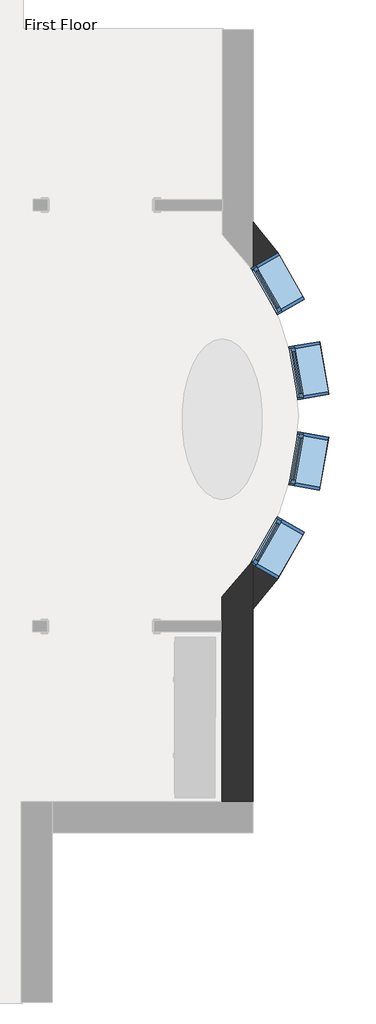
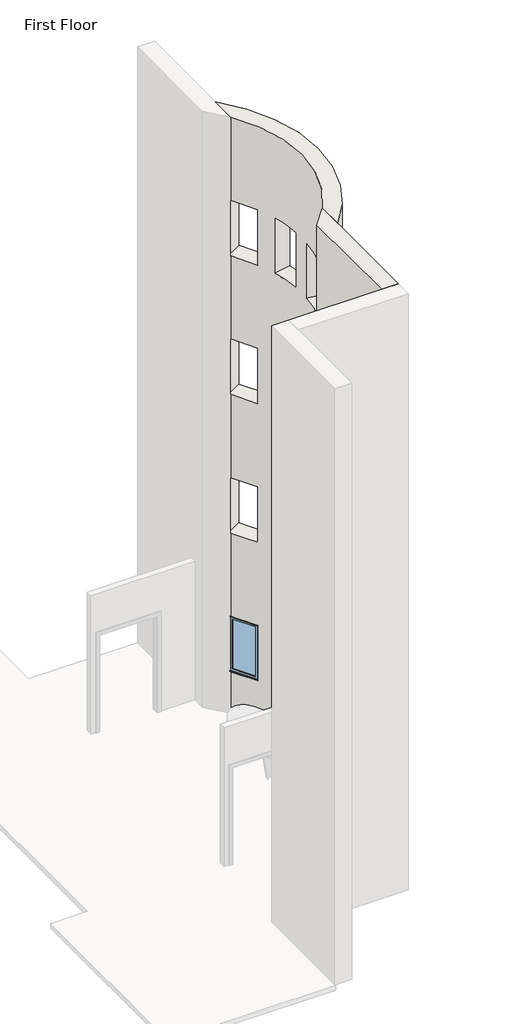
# One storey, part 9 of 21: 4 windows, 2 walls.
"""IFC4 building model written with IfcOpenShell, lengths in millimetres."""

from ifc_helpers import new_model, si_unit, frame, origin, place, context, project, spatial, polyline, circle_curve, transform, mapped, element, save
from ifc_brep_helpers import plane_surface, cylinder_surface, revolved_surface, advanced_brep
from components import window_60baf983, window_ed80354a

model = new_model("IFC4")

# Units and contexts
model_context = context("Model", 3, world=origin())
ifc_project = project(units=[si_unit("LENGTHUNIT", "METRE", prefix="MILLI")], contexts=[model_context])

# Site, building, storey
site = spatial("IfcSite", under=ifc_project)
building = spatial("IfcBuilding", under=site)
storey = spatial("IfcBuildingStorey", under=building, Name="First Floor", Elevation=0.0)

# Walls
placement = place(None, origin())
element("IfcWall", 1, ObjectType="Exterior - Brick on Mtl. Stud", at=placement, inside=storey, context=model_context, shape_type="AdvancedBrep", body=[
    advanced_brep(
    [(-23526.8117359, -6443.0502457, 0.0), (-23527.2351081, -7000.9446693, 0.0), (-23528.8981082, -9192.3463043, 0.0), (-23881.3230067, -9192.0788578, 0.0), (-23879.8556652, -7258.5044146, 0.0), (-23879.7592881, -7131.5044511, 0.0), (-23879.5507279, -6856.676378, 0.0), (-23528.8981082, -9192.3463043, 13106.4), (-23527.2351081, -7000.9446693, 13106.4), (-23526.8117359, -6443.0502457, 13106.4), (-23879.5507279, -6856.676378, 13106.4), (-23881.3230067, -9192.0788578, 13106.4), (-23526.8117359, -6443.0502457, 914.4), (-23526.8491395, -6492.3384795, 914.4), (-23526.8491395, -6492.3384795, 2133.6), (-23526.8117359, -6443.0502457, 2133.6), (-23526.8117359, -6443.0502457, 3962.4), (-23526.8491395, -6492.3384795, 3962.4), (-23526.8491395, -6492.3384795, 5181.6), (-23526.8117359, -6443.0502457, 5181.6), (-23526.8117359, -6443.0502457, 7010.4), (-23526.8491395, -6492.3384795, 7010.4), (-23526.8491395, -6492.3384795, 8229.6), (-23526.8117359, -6443.0502457, 8229.6), (-23526.8117359, -6443.0502457, 10058.4), (-23526.8491395, -6492.3384795, 10058.4), (-23526.8491395, -6492.3384795, 11277.6), (-23526.8117359, -6443.0502457, 11277.6), (-23532.3737898, -6450.9575289, 11277.6), (-23532.3737898, -6450.9575289, 10058.4), (-23532.3737898, -6450.9575289, 8229.6), (-23532.3737898, -6450.9575289, 7010.4), (-23532.3737898, -6450.9575289, 5181.6), (-23532.3737898, -6450.9575289, 3962.4), (-23532.3737898, -6450.9575289, 2133.6), (-23532.3737898, -6450.9575289, 914.4), (-23548.8527973, -6479.7410461, 2133.6), (-23548.8527973, -6479.7410461, 914.4), (-23548.8527973, -6479.7410461, 11277.6), (-23548.8527973, -6479.7410461, 10058.4), (-23548.8527973, -6479.7410461, 5181.6), (-23548.8527973, -6479.7410461, 3962.4), (-23548.8527973, -6479.7410461, 8229.6), (-23548.8527973, -6479.7410461, 7010.4)],
    [
        (0, 1),
        (1, 2),
        (2, 3),
        (3, 4),
        (4, 5),
        (5, 6),
        (6, 0, circle_curve(frame((-25878.481463, -4794.7744983, 0.0), z_axis=(0.0, 0.0, 1.0), x_axis=(0.0007588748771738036, 0.999999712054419, 0.0)), 2871.7875)),
        (7, 8),
        (8, 9),
        (9, 10, circle_curve(frame((-25878.481463, -4794.7744983, 13106.4), z_axis=(0.0, 0.0, -1.0), x_axis=(0.0007588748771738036, 0.999999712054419, 0.0)), 2871.7875)),
        (10, 11),
        (11, 7),
        (0, 12),
        (12, 13),
        (13, 14),
        (14, 15),
        (15, 16),
        (16, 17),
        (17, 18),
        (18, 19),
        (19, 20),
        (20, 21),
        (21, 22),
        (22, 23),
        (23, 24),
        (24, 25),
        (25, 26),
        (26, 27),
        (27, 9),
        (7, 2),
        (3, 11),
        (10, 6),
        (27, 28, circle_curve(frame((-25878.481463, -4794.7744983, 11277.6), z_axis=(0.0, 0.0, -1.0), x_axis=(0.0007588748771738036, 0.999999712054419, 0.0)), 2871.7875)),
        (28, 29),
        (29, 24, circle_curve(frame((-25878.481463, -4794.7744983, 10058.4), z_axis=(0.0, 0.0, 1.0), x_axis=(0.0007588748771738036, 0.999999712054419, 0.0)), 2871.7875)),
        (23, 30, circle_curve(frame((-25878.481463, -4794.7744983, 8229.6), z_axis=(0.0, 0.0, -1.0), x_axis=(0.0007588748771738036, 0.999999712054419, 0.0)), 2871.7875)),
        (30, 31),
        (31, 20, circle_curve(frame((-25878.481463, -4794.7744983, 7010.4), z_axis=(0.0, 0.0, 1.0), x_axis=(0.0007588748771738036, 0.999999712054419, 0.0)), 2871.7875)),
        (19, 32, circle_curve(frame((-25878.481463, -4794.7744983, 5181.6), z_axis=(0.0, 0.0, -1.0), x_axis=(0.0007588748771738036, 0.999999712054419, 0.0)), 2871.7875)),
        (32, 33),
        (33, 16, circle_curve(frame((-25878.481463, -4794.7744983, 3962.4), z_axis=(0.0, 0.0, 1.0), x_axis=(0.0007588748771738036, 0.999999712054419, 0.0)), 2871.7875)),
        (15, 34, circle_curve(frame((-25878.481463, -4794.7744983, 2133.6), z_axis=(0.0, 0.0, -1.0), x_axis=(0.0007588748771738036, 0.999999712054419, 0.0)), 2871.7875)),
        (34, 35),
        (35, 12, circle_curve(frame((-25878.481463, -4794.7744983, 914.4), z_axis=(0.0, 0.0, 1.0), x_axis=(0.0007588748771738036, 0.999999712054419, 0.0)), 2871.7875)),
        (36, 37),
        (37, 35),
        (34, 36),
        (37, 13),
        (36, 14),
        (38, 39),
        (39, 29),
        (28, 38),
        (39, 25),
        (38, 26),
        (40, 41),
        (41, 33),
        (32, 40),
        (41, 17),
        (40, 18),
        (42, 43),
        (43, 31),
        (30, 42),
        (43, 21),
        (42, 22),
    ],
    [
        plane_surface(frame((-23529.0318314, -9368.5587536, 0.0), z_axis=(0.0, 0.0, -1.0), x_axis=(-0.999999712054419, 0.0007588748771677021, 0.0))),
        plane_surface(frame((-23527.1813909, -6930.1594557, 13106.4), z_axis=(0.0, 0.0, 1.0), x_axis=(-0.999999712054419, 0.0007588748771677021, 0.0))),
        plane_surface(frame((-23529.0318314, -9368.5587536, 0.0), z_axis=(0.999999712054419, -0.0007588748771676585, 0.0), x_axis=(0.0007588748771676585, 0.999999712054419, 0.0))),
        plane_surface(frame((-23881.4567299, -9368.2913071, 0.0), z_axis=(-0.999999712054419, 0.0007588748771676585, 0.0), x_axis=(-0.0007588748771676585, -0.999999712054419, 0.0))),
        plane_surface(frame((-25991.1098992, -9190.4777931, 0.0), z_axis=(-0.0007588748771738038, -0.9999997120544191, 0.0), x_axis=(-0.9999997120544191, 0.0007588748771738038, 0.0))),
        revolved_surface(polyline([(-25876.302135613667, -1922.9878252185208, 0.0), (-25876.302135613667, -1922.9878252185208, 13106.399999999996)]), (-25878.481463, -4794.7744983, 0.0), (0.0, 0.0, -0.9999999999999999)),
        plane_surface(frame((-23245.9731559, -5950.7078875, 2133.6), z_axis=(0.8678365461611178, -0.49684980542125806, 0.0), x_axis=(0.0, 0.0, -1.0))),
        plane_surface(frame((-23245.9731559, -5950.7078875, 914.4), z_axis=(0.0, 0.0, 1.0), x_axis=(0.8678365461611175, -0.4968498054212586, 0.0))),
        plane_surface(frame((-23548.8527973, -6479.7410461, 914.4), z_axis=(0.4968498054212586, 0.8678365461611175, 0.0), x_axis=(0.8678365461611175, -0.4968498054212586, 0.0))),
        plane_surface(frame((-23548.8527973, -6479.7410461, 2133.6), z_axis=(0.0, 0.0, -1.0), x_axis=(0.8678365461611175, -0.4968498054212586, 0.0))),
        plane_surface(frame((-23245.9731559, -5950.7078875, 11277.6), z_axis=(0.8678365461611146, -0.49684980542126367, 0.0), x_axis=(0.0, 0.0, -1.0))),
        plane_surface(frame((-23245.9731559, -5950.7078875, 10058.4), z_axis=(0.0, 0.0, 1.0000000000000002), x_axis=(0.8678365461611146, -0.496849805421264, 0.0))),
        plane_surface(frame((-23548.8527973, -6479.7410461, 10058.4), z_axis=(0.496849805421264, 0.8678365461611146, 0.0), x_axis=(0.8678365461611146, -0.496849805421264, 0.0))),
        plane_surface(frame((-23548.8527973, -6479.7410461, 11277.6), z_axis=(0.0, 0.0, -1.0000000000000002), x_axis=(0.8678365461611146, -0.496849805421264, 0.0))),
        plane_surface(frame((-23245.9731559, -5950.7078875, 5181.6), z_axis=(0.8678365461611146, -0.49684980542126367, 0.0), x_axis=(0.0, 0.0, -1.0))),
        plane_surface(frame((-23245.9731559, -5950.7078875, 3962.4), z_axis=(0.0, 0.0, 1.0000000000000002), x_axis=(0.8678365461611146, -0.496849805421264, 0.0))),
        plane_surface(frame((-23548.8527973, -6479.7410461, 3962.4), z_axis=(0.496849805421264, 0.8678365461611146, 0.0), x_axis=(0.8678365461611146, -0.496849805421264, 0.0))),
        plane_surface(frame((-23548.8527973, -6479.7410461, 5181.6), z_axis=(0.0, 0.0, -1.0000000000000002), x_axis=(0.8678365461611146, -0.496849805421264, 0.0))),
        plane_surface(frame((-23245.9731559, -5950.7078875, 8229.6), z_axis=(0.8678365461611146, -0.49684980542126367, 0.0), x_axis=(0.0, 0.0, -1.0))),
        plane_surface(frame((-23245.9731559, -5950.7078875, 7010.4), z_axis=(0.0, 0.0, 1.0000000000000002), x_axis=(0.8678365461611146, -0.496849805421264, 0.0))),
        plane_surface(frame((-23548.8527973, -6479.7410461, 7010.4), z_axis=(0.496849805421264, 0.8678365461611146, 0.0), x_axis=(0.8678365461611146, -0.496849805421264, 0.0))),
        plane_surface(frame((-23548.8527973, -6479.7410461, 8229.6), z_axis=(0.0, 0.0, -1.0000000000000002), x_axis=(0.8678365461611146, -0.496849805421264, 0.0))),
    ],
    [
        (0, [[1, 2, 3, 4, 5, 6, 7]]),
        (1, [[8, 9, 10, 11, 12]]),
        (2, [[-2, -1, 13, 14, 15, 16, 17, 18, 19, 20, 21, 22, 23, 24, 25, 26, 27, 28, 29, -9, -8, 30]]),
        (3, [[-6, -5, -4, 31, -11, 32]]),
        (4, [[-30, -12, -31, -3]]),
        (5, [[-7, -32, -10, -29, 33, 34, 35, -25, 36, 37, 38, -21, 39, 40, 41, -17, 42, 43, 44, -13]]),
        (6, [[45, 46, -43, 47]]),
        (7, [[48, -14, -44, -46]]),
        (8, [[-45, 49, -15, -48]]),
        (9, [[-49, -47, -42, -16]]),
        (10, [[50, 51, -34, 52]]),
        (11, [[53, -26, -35, -51]]),
        (12, [[-50, 54, -27, -53]]),
        (13, [[-54, -52, -33, -28]]),
        (14, [[55, 56, -40, 57]]),
        (15, [[58, -18, -41, -56]]),
        (16, [[-55, 59, -19, -58]]),
        (17, [[-59, -57, -39, -20]]),
        (18, [[60, 61, -37, 62]]),
        (19, [[63, -22, -38, -61]]),
        (20, [[-60, 64, -23, -63]]),
        (21, [[-64, -62, -36, -24]]),
    ],
),
])
element("IfcWall", 2, ObjectType="Exterior - Brick on Mtl. Stud", at=placement, inside=storey, context=model_context, shape_type="AdvancedBrep", body=[
    advanced_brep(
    [(-23524.3127751, -3150.0698944, 13106.4), (-23526.8117359, -6443.0502457, 13106.4), (-23527.2351081, -7000.9446693, 13106.4), (-23523.8894029, -2592.1754708, 13106.4), (-23526.8117359, -6443.0502457, 0.0), (-23524.3127751, -3150.0698944, 0.0), (-23523.8894029, -2592.1754708, 0.0), (-23527.2351081, -7000.9446693, 0.0), (-23524.3127751, -3150.0698944, 11277.6), (-23247.127752, -3644.4957959, 11277.6), (-23247.127752, -3644.4957959, 10058.4), (-23524.3127751, -3150.0698944, 10058.4), (-23524.3127751, -3150.0698944, 8229.6), (-23247.127752, -3644.4957959, 8229.6), (-23247.127752, -3644.4957959, 7010.4), (-23524.3127751, -3150.0698944, 7010.4), (-23524.3127751, -3150.0698944, 5181.6), (-23247.127752, -3644.4957959, 5181.6), (-23247.127752, -3644.4957959, 3962.4), (-23524.3127751, -3150.0698944, 3962.4), (-23524.3127751, -3150.0698944, 2133.6), (-23247.127752, -3644.4957959, 2133.6), (-23247.127752, -3644.4957959, 914.4), (-23524.3127751, -3150.0698944, 914.4), (-23526.8117359, -6443.0502457, 914.4), (-23248.8766175, -5949.045611, 914.4), (-23248.8766175, -5949.045611, 2133.6), (-23526.8117359, -6443.0502457, 2133.6), (-23526.8117359, -6443.0502457, 3962.4), (-23248.8766175, -5949.045611, 3962.4), (-23248.8766175, -5949.045611, 5181.6), (-23526.8117359, -6443.0502457, 5181.6), (-23526.8117359, -6443.0502457, 7010.4), (-23248.8766175, -5949.045611, 7010.4), (-23248.8766175, -5949.045611, 8229.6), (-23526.8117359, -6443.0502457, 8229.6), (-23526.8117359, -6443.0502457, 10058.4), (-23248.8766175, -5949.045611, 10058.4), (-23248.8766175, -5949.045611, 11277.6), (-23526.8117359, -6443.0502457, 11277.6), (-23012.4751355, -4612.6449398, 8229.6), (-23012.4751355, -4612.6449398, 7010.4), (-23115.4880139, -4011.8117626, 7010.4), (-23115.4880139, -4011.8117626, 8229.6), (-23012.7548636, -4981.253726, 8229.6), (-23116.6795374, -5581.9298635, 8229.6), (-23116.6795374, -5581.9298635, 7010.4), (-23012.7548636, -4981.253726, 7010.4), (-23012.4751355, -4612.6449398, 5181.6), (-23012.4751355, -4612.6449398, 3962.4), (-23115.4880139, -4011.8117626, 3962.4), (-23115.4880139, -4011.8117626, 5181.6), (-23012.7548636, -4981.253726, 5181.6), (-23116.6795374, -5581.9298635, 5181.6), (-23116.6795374, -5581.9298635, 3962.4), (-23012.7548636, -4981.253726, 3962.4), (-23012.4751355, -4612.6449398, 11277.6), (-23012.4751355, -4612.6449398, 10058.4), (-23115.4880139, -4011.8117626, 10058.4), (-23115.4880139, -4011.8117626, 11277.6), (-23012.7548636, -4981.253726, 11277.6), (-23116.6795374, -5581.9298635, 11277.6), (-23116.6795374, -5581.9298635, 10058.4), (-23012.7548636, -4981.253726, 10058.4), (-23012.4751355, -4612.6449398, 2133.6), (-23012.4751355, -4612.6449398, 914.4), (-23115.4880139, -4011.8117626, 914.4), (-23115.4880139, -4011.8117626, 2133.6), (-23012.7548636, -4981.253726, 2133.6), (-23116.6795374, -5581.9298635, 2133.6), (-23116.6795374, -5581.9298635, 914.4), (-23012.7548636, -4981.253726, 914.4), (-22941.4832613, -6125.0330477, 2133.6), (-22941.4832613, -6125.0330477, 914.4), (-23244.3629027, -6654.0662062, 914.4), (-23244.3629027, -6654.0662062, 2133.6), (-22939.4676451, -3468.975108, 914.4), (-22939.4676451, -3468.975108, 2133.6), (-23241.5439979, -2939.4828634, 2133.6), (-23241.5439979, -2939.4828634, 914.4), (-22941.4832613, -6125.0330477, 11277.6), (-22941.4832613, -6125.0330477, 10058.4), (-23244.3629027, -6654.0662062, 10058.4), (-23244.3629027, -6654.0662062, 11277.6), (-22939.4676451, -3468.975108, 10058.4), (-22939.4676451, -3468.975108, 11277.6), (-23241.5439979, -2939.4828634, 11277.6), (-23241.5439979, -2939.4828634, 10058.4), (-22941.4832613, -6125.0330477, 5181.6), (-22941.4832613, -6125.0330477, 3962.4), (-23244.3629027, -6654.0662062, 3962.4), (-23244.3629027, -6654.0662062, 5181.6), (-22939.4676451, -3468.975108, 3962.4), (-22939.4676451, -3468.975108, 5181.6), (-23241.5439979, -2939.4828634, 5181.6), (-23241.5439979, -2939.4828634, 3962.4), (-22941.4832613, -6125.0330477, 8229.6), (-22941.4832613, -6125.0330477, 7010.4), (-23244.3629027, -6654.0662062, 7010.4), (-23244.3629027, -6654.0662062, 8229.6), (-22939.4676451, -3468.975108, 7010.4), (-22939.4676451, -3468.975108, 8229.6), (-23241.5439979, -2939.4828634, 8229.6), (-23241.5439979, -2939.4828634, 7010.4), (-22663.3625631, -4552.7895718, 8229.6), (-22766.3754415, -3951.9563945, 8229.6), (-22766.3754415, -3951.9563945, 7010.4), (-22663.3625631, -4552.7895718, 7010.4), (-22663.7335387, -5041.6388905, 8229.6), (-22663.7335387, -5041.6388905, 7010.4), (-22767.6582125, -5642.315028, 7010.4), (-22767.6582125, -5642.315028, 8229.6), (-22663.3625631, -4552.7895718, 5181.6), (-22766.3754415, -3951.9563945, 5181.6), (-22766.3754415, -3951.9563945, 3962.4), (-22663.3625631, -4552.7895718, 3962.4), (-22663.7335387, -5041.6388905, 5181.6), (-22663.7335387, -5041.6388905, 3962.4), (-22767.6582125, -5642.315028, 3962.4), (-22767.6582125, -5642.315028, 5181.6), (-22663.3625631, -4552.7895718, 11277.6), (-22766.3754415, -3951.9563945, 11277.6), (-22766.3754415, -3951.9563945, 10058.4), (-22663.3625631, -4552.7895718, 10058.4), (-22663.7335387, -5041.6388905, 11277.6), (-22663.7335387, -5041.6388905, 10058.4), (-22767.6582125, -5642.315028, 10058.4), (-22767.6582125, -5642.315028, 11277.6), (-22663.3625631, -4552.7895718, 2133.6), (-22766.3754415, -3951.9563945, 2133.6), (-22766.3754415, -3951.9563945, 914.4), (-22663.3625631, -4552.7895718, 914.4), (-22663.7335387, -5041.6388905, 2133.6), (-22663.7335387, -5041.6388905, 914.4), (-22767.6582125, -5642.315028, 914.4), (-22767.6582125, -5642.315028, 2133.6), (-23524.2753715, -3100.7816606, 914.4), (-23524.2753715, -3100.7816606, 2133.6), (-23524.2753715, -3100.7816606, 3962.4), (-23524.2753715, -3100.7816606, 5181.6), (-23524.2753715, -3100.7816606, 7010.4), (-23524.2753715, -3100.7816606, 8229.6), (-23524.2753715, -3100.7816606, 10058.4), (-23524.2753715, -3100.7816606, 11277.6), (-23526.8491395, -6492.3384795, 11277.6), (-23526.8491395, -6492.3384795, 10058.4), (-23526.8491395, -6492.3384795, 8229.6), (-23526.8491395, -6492.3384795, 7010.4), (-23526.8491395, -6492.3384795, 5181.6), (-23526.8491395, -6492.3384795, 3962.4), (-23526.8491395, -6492.3384795, 2133.6), (-23526.8491395, -6492.3384795, 914.4)],
    [
        (0, 1, circle_curve(frame((-25878.481463, -4794.7744983, 13106.4), z_axis=(0.0, 0.0, -1.0), x_axis=(0.0007588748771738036, 0.999999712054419, 0.0)), 2871.7875)),
        (1, 2),
        (2, 3, circle_curve(frame((-25878.481463, -4794.7744983, 13106.4), z_axis=(0.0, 0.0, 1.0), x_axis=(0.0007588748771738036, 0.999999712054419, 0.0)), 3224.2125)),
        (3, 0),
        (4, 5, circle_curve(frame((-25878.481463, -4794.7744983, 0.0), z_axis=(0.0, 0.0, 1.0), x_axis=(0.0007588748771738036, 0.999999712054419, 0.0)), 2871.7875)),
        (5, 6),
        (6, 7, circle_curve(frame((-25878.481463, -4794.7744983, 0.0), z_axis=(0.0, 0.0, -1.0), x_axis=(0.0007588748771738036, 0.999999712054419, 0.0)), 3224.2125)),
        (7, 4),
        (0, 8),
        (8, 9, circle_curve(frame((-25878.481463, -4794.7744983, 11277.6), z_axis=(0.0, 0.0, -1.0), x_axis=(0.0007588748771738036, 0.999999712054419, 0.0)), 2871.7875)),
        (9, 10),
        (10, 11, circle_curve(frame((-25878.481463, -4794.7744983, 10058.4), z_axis=(0.0, 0.0, 1.0), x_axis=(0.0007588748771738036, 0.999999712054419, 0.0)), 2871.7875)),
        (11, 12),
        (12, 13, circle_curve(frame((-25878.481463, -4794.7744983, 8229.6), z_axis=(0.0, 0.0, -1.0), x_axis=(0.0007588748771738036, 0.999999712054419, 0.0)), 2871.7875)),
        (13, 14),
        (14, 15, circle_curve(frame((-25878.481463, -4794.7744983, 7010.4), z_axis=(0.0, 0.0, 1.0), x_axis=(0.0007588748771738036, 0.999999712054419, 0.0)), 2871.7875)),
        (15, 16),
        (16, 17, circle_curve(frame((-25878.481463, -4794.7744983, 5181.6), z_axis=(0.0, 0.0, -1.0), x_axis=(0.0007588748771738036, 0.999999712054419, 0.0)), 2871.7875)),
        (17, 18),
        (18, 19, circle_curve(frame((-25878.481463, -4794.7744983, 3962.4), z_axis=(0.0, 0.0, 1.0), x_axis=(0.0007588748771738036, 0.999999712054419, 0.0)), 2871.7875)),
        (19, 20),
        (20, 21, circle_curve(frame((-25878.481463, -4794.7744983, 2133.6), z_axis=(0.0, 0.0, -1.0), x_axis=(0.0007588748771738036, 0.999999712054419, 0.0)), 2871.7875)),
        (21, 22),
        (22, 23, circle_curve(frame((-25878.481463, -4794.7744983, 914.4), z_axis=(0.0, 0.0, 1.0), x_axis=(0.0007588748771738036, 0.999999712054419, 0.0)), 2871.7875)),
        (23, 5),
        (4, 24),
        (24, 25, circle_curve(frame((-25878.481463, -4794.7744983, 914.4), z_axis=(0.0, 0.0, 1.0), x_axis=(0.0007588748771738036, 0.999999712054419, 0.0)), 2871.7875)),
        (25, 26),
        (26, 27, circle_curve(frame((-25878.481463, -4794.7744983, 2133.6), z_axis=(0.0, 0.0, -1.0), x_axis=(0.0007588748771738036, 0.999999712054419, 0.0)), 2871.7875)),
        (27, 28),
        (28, 29, circle_curve(frame((-25878.481463, -4794.7744983, 3962.4), z_axis=(0.0, 0.0, 1.0), x_axis=(0.0007588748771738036, 0.999999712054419, 0.0)), 2871.7875)),
        (29, 30),
        (30, 31, circle_curve(frame((-25878.481463, -4794.7744983, 5181.6), z_axis=(0.0, 0.0, -1.0), x_axis=(0.0007588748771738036, 0.999999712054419, 0.0)), 2871.7875)),
        (31, 32),
        (32, 33, circle_curve(frame((-25878.481463, -4794.7744983, 7010.4), z_axis=(0.0, 0.0, 1.0), x_axis=(0.0007588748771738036, 0.999999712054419, 0.0)), 2871.7875)),
        (33, 34),
        (34, 35, circle_curve(frame((-25878.481463, -4794.7744983, 8229.6), z_axis=(0.0, 0.0, -1.0), x_axis=(0.0007588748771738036, 0.999999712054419, 0.0)), 2871.7875)),
        (35, 36),
        (36, 37, circle_curve(frame((-25878.481463, -4794.7744983, 10058.4), z_axis=(0.0, 0.0, 1.0), x_axis=(0.0007588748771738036, 0.999999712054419, 0.0)), 2871.7875)),
        (37, 38),
        (38, 39, circle_curve(frame((-25878.481463, -4794.7744983, 11277.6), z_axis=(0.0, 0.0, -1.0), x_axis=(0.0007588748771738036, 0.999999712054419, 0.0)), 2871.7875)),
        (39, 1),
        (40, 41),
        (41, 42, circle_curve(frame((-25878.481463, -4794.7744983, 7010.4), z_axis=(0.0, 0.0, 1.0), x_axis=(0.0007588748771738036, 0.999999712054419, 0.0)), 2871.7875)),
        (42, 43),
        (43, 40, circle_curve(frame((-25878.481463, -4794.7744983, 8229.6), z_axis=(0.0, 0.0, -1.0), x_axis=(0.0007588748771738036, 0.999999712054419, 0.0)), 2871.7875)),
        (44, 45, circle_curve(frame((-25878.481463, -4794.7744983, 8229.6), z_axis=(0.0, 0.0, -1.0), x_axis=(0.0007588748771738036, 0.999999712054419, 0.0)), 2871.7875)),
        (45, 46),
        (46, 47, circle_curve(frame((-25878.481463, -4794.7744983, 7010.4), z_axis=(0.0, 0.0, 1.0), x_axis=(0.0007588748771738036, 0.999999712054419, 0.0)), 2871.7875)),
        (47, 44),
        (48, 49),
        (49, 50, circle_curve(frame((-25878.481463, -4794.7744983, 3962.4), z_axis=(0.0, 0.0, 1.0), x_axis=(0.0007588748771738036, 0.999999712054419, 0.0)), 2871.7875)),
        (50, 51),
        (51, 48, circle_curve(frame((-25878.481463, -4794.7744983, 5181.6), z_axis=(0.0, 0.0, -1.0), x_axis=(0.0007588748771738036, 0.999999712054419, 0.0)), 2871.7875)),
        (52, 53, circle_curve(frame((-25878.481463, -4794.7744983, 5181.6), z_axis=(0.0, 0.0, -1.0), x_axis=(0.0007588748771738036, 0.999999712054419, 0.0)), 2871.7875)),
        (53, 54),
        (54, 55, circle_curve(frame((-25878.481463, -4794.7744983, 3962.4), z_axis=(0.0, 0.0, 1.0), x_axis=(0.0007588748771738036, 0.999999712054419, 0.0)), 2871.7875)),
        (55, 52),
        (56, 57),
        (57, 58, circle_curve(frame((-25878.481463, -4794.7744983, 10058.4), z_axis=(0.0, 0.0, 1.0), x_axis=(0.0007588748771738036, 0.999999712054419, 0.0)), 2871.7875)),
        (58, 59),
        (59, 56, circle_curve(frame((-25878.481463, -4794.7744983, 11277.6), z_axis=(0.0, 0.0, -1.0), x_axis=(0.0007588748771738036, 0.999999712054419, 0.0)), 2871.7875)),
        (60, 61, circle_curve(frame((-25878.481463, -4794.7744983, 11277.6), z_axis=(0.0, 0.0, -1.0), x_axis=(0.0007588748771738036, 0.999999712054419, 0.0)), 2871.7875)),
        (61, 62),
        (62, 63, circle_curve(frame((-25878.481463, -4794.7744983, 10058.4), z_axis=(0.0, 0.0, 1.0), x_axis=(0.0007588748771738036, 0.999999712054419, 0.0)), 2871.7875)),
        (63, 60),
        (64, 65),
        (65, 66, circle_curve(frame((-25878.481463, -4794.7744983, 914.4), z_axis=(0.0, 0.0, 1.0), x_axis=(0.0007588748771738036, 0.999999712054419, 0.0)), 2871.7875)),
        (66, 67),
        (67, 64, circle_curve(frame((-25878.481463, -4794.7744983, 2133.6), z_axis=(0.0, 0.0, -1.0), x_axis=(0.0007588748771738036, 0.999999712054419, 0.0)), 2871.7875)),
        (68, 69, circle_curve(frame((-25878.481463, -4794.7744983, 2133.6), z_axis=(0.0, 0.0, -1.0), x_axis=(0.0007588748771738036, 0.999999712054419, 0.0)), 2871.7875)),
        (69, 70),
        (70, 71, circle_curve(frame((-25878.481463, -4794.7744983, 914.4), z_axis=(0.0, 0.0, 1.0), x_axis=(0.0007588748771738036, 0.999999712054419, 0.0)), 2871.7875)),
        (71, 68),
        (2, 7),
        (6, 3),
        (72, 73),
        (73, 74, circle_curve(frame((-25878.481463, -4794.7744983, 914.4), z_axis=(0.0, 0.0, -1.0), x_axis=(0.0007588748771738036, 0.999999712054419, 0.0)), 3224.2125)),
        (74, 75),
        (75, 72, circle_curve(frame((-25878.481463, -4794.7744983, 2133.6), z_axis=(0.0, 0.0, 1.0), x_axis=(0.0007588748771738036, 0.999999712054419, 0.0)), 3224.2125)),
        (76, 77),
        (77, 78, circle_curve(frame((-25878.481463, -4794.7744983, 2133.6), z_axis=(0.0, 0.0, 1.0), x_axis=(0.0007588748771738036, 0.999999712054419, 0.0)), 3224.2125)),
        (78, 79),
        (79, 76, circle_curve(frame((-25878.481463, -4794.7744983, 914.4), z_axis=(0.0, 0.0, -1.0), x_axis=(0.0007588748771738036, 0.999999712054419, 0.0)), 3224.2125)),
        (80, 81),
        (81, 82, circle_curve(frame((-25878.481463, -4794.7744983, 10058.4), z_axis=(0.0, 0.0, -1.0), x_axis=(0.0007588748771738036, 0.999999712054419, 0.0)), 3224.2125)),
        (82, 83),
        (83, 80, circle_curve(frame((-25878.481463, -4794.7744983, 11277.6), z_axis=(0.0, 0.0, 1.0), x_axis=(0.0007588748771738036, 0.999999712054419, 0.0)), 3224.2125)),
        (84, 85),
        (85, 86, circle_curve(frame((-25878.481463, -4794.7744983, 11277.6), z_axis=(0.0, 0.0, 1.0), x_axis=(0.0007588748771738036, 0.999999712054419, 0.0)), 3224.2125)),
        (86, 87),
        (87, 84, circle_curve(frame((-25878.481463, -4794.7744983, 10058.4), z_axis=(0.0, 0.0, -1.0), x_axis=(0.0007588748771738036, 0.999999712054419, 0.0)), 3224.2125)),
        (88, 89),
        (89, 90, circle_curve(frame((-25878.481463, -4794.7744983, 3962.4), z_axis=(0.0, 0.0, -1.0), x_axis=(0.0007588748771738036, 0.999999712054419, 0.0)), 3224.2125)),
        (90, 91),
        (91, 88, circle_curve(frame((-25878.481463, -4794.7744983, 5181.6), z_axis=(0.0, 0.0, 1.0), x_axis=(0.0007588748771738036, 0.999999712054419, 0.0)), 3224.2125)),
        (92, 93),
        (93, 94, circle_curve(frame((-25878.481463, -4794.7744983, 5181.6), z_axis=(0.0, 0.0, 1.0), x_axis=(0.0007588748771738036, 0.999999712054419, 0.0)), 3224.2125)),
        (94, 95),
        (95, 92, circle_curve(frame((-25878.481463, -4794.7744983, 3962.4), z_axis=(0.0, 0.0, -1.0), x_axis=(0.0007588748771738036, 0.999999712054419, 0.0)), 3224.2125)),
        (96, 97),
        (97, 98, circle_curve(frame((-25878.481463, -4794.7744983, 7010.4), z_axis=(0.0, 0.0, -1.0), x_axis=(0.0007588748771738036, 0.999999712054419, 0.0)), 3224.2125)),
        (98, 99),
        (99, 96, circle_curve(frame((-25878.481463, -4794.7744983, 8229.6), z_axis=(0.0, 0.0, 1.0), x_axis=(0.0007588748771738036, 0.999999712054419, 0.0)), 3224.2125)),
        (100, 101),
        (101, 102, circle_curve(frame((-25878.481463, -4794.7744983, 8229.6), z_axis=(0.0, 0.0, 1.0), x_axis=(0.0007588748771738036, 0.999999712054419, 0.0)), 3224.2125)),
        (102, 103),
        (103, 100, circle_curve(frame((-25878.481463, -4794.7744983, 7010.4), z_axis=(0.0, 0.0, -1.0), x_axis=(0.0007588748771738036, 0.999999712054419, 0.0)), 3224.2125)),
        (104, 105, circle_curve(frame((-25878.481463, -4794.7744983, 8229.6), z_axis=(0.0, 0.0, 1.0), x_axis=(0.0007588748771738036, 0.999999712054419, 0.0)), 3224.2125)),
        (105, 106),
        (106, 107, circle_curve(frame((-25878.481463, -4794.7744983, 7010.4), z_axis=(0.0, 0.0, -1.0), x_axis=(0.0007588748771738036, 0.999999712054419, 0.0)), 3224.2125)),
        (107, 104),
        (108, 109),
        (109, 110, circle_curve(frame((-25878.481463, -4794.7744983, 7010.4), z_axis=(0.0, 0.0, -1.0), x_axis=(0.0007588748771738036, 0.999999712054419, 0.0)), 3224.2125)),
        (110, 111),
        (111, 108, circle_curve(frame((-25878.481463, -4794.7744983, 8229.6), z_axis=(0.0, 0.0, 1.0), x_axis=(0.0007588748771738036, 0.999999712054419, 0.0)), 3224.2125)),
        (112, 113, circle_curve(frame((-25878.481463, -4794.7744983, 5181.6), z_axis=(0.0, 0.0, 1.0), x_axis=(0.0007588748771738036, 0.999999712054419, 0.0)), 3224.2125)),
        (113, 114),
        (114, 115, circle_curve(frame((-25878.481463, -4794.7744983, 3962.4), z_axis=(0.0, 0.0, -1.0), x_axis=(0.0007588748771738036, 0.999999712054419, 0.0)), 3224.2125)),
        (115, 112),
        (116, 117),
        (117, 118, circle_curve(frame((-25878.481463, -4794.7744983, 3962.4), z_axis=(0.0, 0.0, -1.0), x_axis=(0.0007588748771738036, 0.999999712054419, 0.0)), 3224.2125)),
        (118, 119),
        (119, 116, circle_curve(frame((-25878.481463, -4794.7744983, 5181.6), z_axis=(0.0, 0.0, 1.0), x_axis=(0.0007588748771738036, 0.999999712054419, 0.0)), 3224.2125)),
        (120, 121, circle_curve(frame((-25878.481463, -4794.7744983, 11277.6), z_axis=(0.0, 0.0, 1.0), x_axis=(0.0007588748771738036, 0.999999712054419, 0.0)), 3224.2125)),
        (121, 122),
        (122, 123, circle_curve(frame((-25878.481463, -4794.7744983, 10058.4), z_axis=(0.0, 0.0, -1.0), x_axis=(0.0007588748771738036, 0.999999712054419, 0.0)), 3224.2125)),
        (123, 120),
        (124, 125),
        (125, 126, circle_curve(frame((-25878.481463, -4794.7744983, 10058.4), z_axis=(0.0, 0.0, -1.0), x_axis=(0.0007588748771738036, 0.999999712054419, 0.0)), 3224.2125)),
        (126, 127),
        (127, 124, circle_curve(frame((-25878.481463, -4794.7744983, 11277.6), z_axis=(0.0, 0.0, 1.0), x_axis=(0.0007588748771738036, 0.999999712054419, 0.0)), 3224.2125)),
        (128, 129, circle_curve(frame((-25878.481463, -4794.7744983, 2133.6), z_axis=(0.0, 0.0, 1.0), x_axis=(0.0007588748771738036, 0.999999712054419, 0.0)), 3224.2125)),
        (129, 130),
        (130, 131, circle_curve(frame((-25878.481463, -4794.7744983, 914.4), z_axis=(0.0, 0.0, -1.0), x_axis=(0.0007588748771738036, 0.999999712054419, 0.0)), 3224.2125)),
        (131, 128),
        (132, 133),
        (133, 134, circle_curve(frame((-25878.481463, -4794.7744983, 914.4), z_axis=(0.0, 0.0, -1.0), x_axis=(0.0007588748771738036, 0.999999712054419, 0.0)), 3224.2125)),
        (134, 135),
        (135, 132, circle_curve(frame((-25878.481463, -4794.7744983, 2133.6), z_axis=(0.0, 0.0, 1.0), x_axis=(0.0007588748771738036, 0.999999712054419, 0.0)), 3224.2125)),
        (23, 136),
        (136, 137),
        (137, 20),
        (19, 138),
        (138, 139),
        (139, 16),
        (15, 140),
        (140, 141),
        (141, 12),
        (11, 142),
        (142, 143),
        (143, 8),
        (39, 144),
        (144, 145),
        (145, 36),
        (35, 146),
        (146, 147),
        (147, 32),
        (31, 148),
        (148, 149),
        (149, 28),
        (27, 150),
        (150, 151),
        (151, 24),
        (72, 26),
        (25, 73),
        (151, 74),
        (150, 75),
        (21, 77),
        (76, 22),
        (79, 136),
        (78, 137),
        (80, 38),
        (37, 81),
        (145, 82),
        (144, 83),
        (9, 85),
        (84, 10),
        (87, 142),
        (86, 143),
        (88, 30),
        (29, 89),
        (149, 90),
        (148, 91),
        (17, 93),
        (92, 18),
        (95, 138),
        (94, 139),
        (96, 34),
        (33, 97),
        (147, 98),
        (146, 99),
        (13, 101),
        (100, 14),
        (103, 140),
        (102, 141),
        (40, 104),
        (107, 41),
        (106, 42),
        (105, 43),
        (108, 44),
        (47, 109),
        (46, 110),
        (45, 111),
        (48, 112),
        (115, 49),
        (114, 50),
        (113, 51),
        (116, 52),
        (55, 117),
        (54, 118),
        (53, 119),
        (56, 120),
        (123, 57),
        (122, 58),
        (121, 59),
        (124, 60),
        (63, 125),
        (62, 126),
        (61, 127),
        (64, 128),
        (131, 65),
        (130, 66),
        (129, 67),
        (132, 68),
        (71, 133),
        (70, 134),
        (69, 135),
    ],
    [
        plane_surface(frame((-25876.3021356, -1922.9878252, 13106.4), z_axis=(0.0, 0.0, 1.0), x_axis=(0.999999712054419, -0.0007588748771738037, 0.0))),
        plane_surface(frame((-25876.3021356, -1922.9878252, 0.0), z_axis=(0.0, 0.0, -1.0), x_axis=(-0.999999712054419, 0.0007588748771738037, 0.0))),
        revolved_surface(polyline([(-25876.302135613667, -1922.9878252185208, 0.0), (-25876.302135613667, -1922.9878252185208, 13106.399999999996)]), (-25878.481463, -4794.7744983, 0.0), (0.0, 0.0, -0.9999999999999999)),
        cylinder_surface(frame((-25878.481463, -4794.7744983, 0.0), z_axis=(0.0, 0.0, 0.9999999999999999), x_axis=(0.0007588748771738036, 0.999999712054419, 0.0)), 3224.2125),
        plane_surface(frame((-23522.0926796, -224.5613865, 0.0), z_axis=(-0.999999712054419, 0.0007588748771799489, 0.0), x_axis=(0.0007588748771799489, 0.999999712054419, 0.0))),
        plane_surface(frame((-23529.0318314, -9368.5587536, 0.0), z_axis=(-0.999999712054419, 0.0007588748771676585, 0.0), x_axis=(0.0007588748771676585, 0.999999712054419, 0.0))),
        plane_surface(frame((-24265.6122191, -5366.9488002, 2133.6), z_axis=(-0.4968498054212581, -0.8678365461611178, 0.0), x_axis=(0.8678365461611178, -0.4968498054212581, 0.0))),
        plane_surface(frame((-24265.6122191, -5366.9488002, 914.4), z_axis=(0.0, 0.0, 1.0), x_axis=(0.8678365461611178, -0.4968498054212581, 0.0))),
        plane_surface(frame((-24568.4918605, -5895.9819588, 914.4), z_axis=(0.4968498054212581, 0.8678365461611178, 0.0), x_axis=(0.8678365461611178, -0.4968498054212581, 0.0))),
        plane_surface(frame((-24568.4918605, -5895.9819588, 2133.6), z_axis=(0.0, 0.0, -1.0), x_axis=(0.8678365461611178, -0.4968498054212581, 0.0))),
        plane_surface(frame((-21617.2844367, -2714.6670224, 2133.6), z_axis=(-0.49553207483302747, 0.8685896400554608, 0.0), x_axis=(-0.8685896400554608, -0.49553207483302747, 0.0))),
        plane_surface(frame((-21617.2844367, -2714.6670224, 914.4), z_axis=(0.0, 0.0, 1.0000000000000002), x_axis=(-0.8685896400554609, -0.49553207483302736, 0.0))),
        plane_surface(frame((-21919.3607895, -2185.1747778, 914.4), z_axis=(0.49553207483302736, -0.8685896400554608, 0.0), x_axis=(-0.8685896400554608, -0.49553207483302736, 0.0))),
        plane_surface(frame((-21919.3607895, -2185.1747778, 2133.6), z_axis=(0.0, 0.0, -1.0), x_axis=(-0.8685896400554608, -0.49553207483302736, 0.0))),
        plane_surface(frame((-24265.6122191, -5366.9488002, 11277.6), z_axis=(-0.49684980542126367, -0.8678365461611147, 0.0), x_axis=(0.8678365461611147, -0.49684980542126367, 0.0))),
        plane_surface(frame((-24265.6122191, -5366.9488002, 10058.4), z_axis=(0.0, 0.0, 1.0000000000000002), x_axis=(0.8678365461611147, -0.49684980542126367, 0.0))),
        plane_surface(frame((-24568.4918605, -5895.9819588, 10058.4), z_axis=(0.49684980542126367, 0.8678365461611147, 0.0), x_axis=(0.8678365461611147, -0.49684980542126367, 0.0))),
        plane_surface(frame((-24568.4918605, -5895.9819588, 11277.6), z_axis=(0.0, 0.0, -1.0000000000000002), x_axis=(0.8678365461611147, -0.49684980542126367, 0.0))),
        plane_surface(frame((-21617.2844367, -2714.6670224, 11277.6), z_axis=(-0.4955320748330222, 0.8685896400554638, 0.0), x_axis=(-0.8685896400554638, -0.4955320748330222, 0.0))),
        plane_surface(frame((-21617.2844367, -2714.6670224, 10058.4), z_axis=(0.0, 0.0, 1.0), x_axis=(-0.8685896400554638, -0.4955320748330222, 0.0))),
        plane_surface(frame((-21919.3607895, -2185.1747778, 10058.4), z_axis=(0.4955320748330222, -0.8685896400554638, 0.0), x_axis=(-0.8685896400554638, -0.4955320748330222, 0.0))),
        plane_surface(frame((-21919.3607895, -2185.1747778, 11277.6), z_axis=(0.0, 0.0, -1.0), x_axis=(-0.8685896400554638, -0.4955320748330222, 0.0))),
        plane_surface(frame((-24265.6122191, -5366.9488002, 5181.6), z_axis=(-0.49684980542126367, -0.8678365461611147, 0.0), x_axis=(0.8678365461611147, -0.49684980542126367, 0.0))),
        plane_surface(frame((-24265.6122191, -5366.9488002, 3962.4), z_axis=(0.0, 0.0, 1.0000000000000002), x_axis=(0.8678365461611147, -0.49684980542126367, 0.0))),
        plane_surface(frame((-24568.4918605, -5895.9819588, 3962.4), z_axis=(0.49684980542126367, 0.8678365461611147, 0.0), x_axis=(0.8678365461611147, -0.49684980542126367, 0.0))),
        plane_surface(frame((-24568.4918605, -5895.9819588, 5181.6), z_axis=(0.0, 0.0, -1.0000000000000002), x_axis=(0.8678365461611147, -0.49684980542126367, 0.0))),
        plane_surface(frame((-21617.2844367, -2714.6670224, 5181.6), z_axis=(-0.4955320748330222, 0.8685896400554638, 0.0), x_axis=(-0.8685896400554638, -0.4955320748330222, 0.0))),
        plane_surface(frame((-21617.2844367, -2714.6670224, 3962.4), z_axis=(0.0, 0.0, 1.0), x_axis=(-0.8685896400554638, -0.4955320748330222, 0.0))),
        plane_surface(frame((-21919.3607895, -2185.1747778, 3962.4), z_axis=(0.4955320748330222, -0.8685896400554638, 0.0), x_axis=(-0.8685896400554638, -0.4955320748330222, 0.0))),
        plane_surface(frame((-21919.3607895, -2185.1747778, 5181.6), z_axis=(0.0, 0.0, -1.0), x_axis=(-0.8685896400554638, -0.4955320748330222, 0.0))),
        plane_surface(frame((-24265.6122191, -5366.9488002, 8229.6), z_axis=(-0.49684980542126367, -0.8678365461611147, 0.0), x_axis=(0.8678365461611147, -0.49684980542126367, 0.0))),
        plane_surface(frame((-24265.6122191, -5366.9488002, 7010.4), z_axis=(0.0, 0.0, 1.0000000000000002), x_axis=(0.8678365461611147, -0.49684980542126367, 0.0))),
        plane_surface(frame((-24568.4918605, -5895.9819588, 7010.4), z_axis=(0.49684980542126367, 0.8678365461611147, 0.0), x_axis=(0.8678365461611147, -0.49684980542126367, 0.0))),
        plane_surface(frame((-24568.4918605, -5895.9819588, 8229.6), z_axis=(0.0, 0.0, -1.0000000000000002), x_axis=(0.8678365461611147, -0.49684980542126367, 0.0))),
        plane_surface(frame((-21617.2844367, -2714.6670224, 8229.6), z_axis=(-0.4955320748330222, 0.8685896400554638, 0.0), x_axis=(-0.8685896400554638, -0.4955320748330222, 0.0))),
        plane_surface(frame((-21617.2844367, -2714.6670224, 7010.4), z_axis=(0.0, 0.0, 1.0), x_axis=(-0.8685896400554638, -0.4955320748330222, 0.0))),
        plane_surface(frame((-21919.3607895, -2185.1747778, 7010.4), z_axis=(0.4955320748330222, -0.8685896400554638, 0.0), x_axis=(-0.8685896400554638, -0.4955320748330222, 0.0))),
        plane_surface(frame((-21919.3607895, -2185.1747778, 8229.6), z_axis=(0.0, 0.0, -1.0), x_axis=(-0.8685896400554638, -0.4955320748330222, 0.0))),
        plane_surface(frame((-23012.4751355, -4612.6449398, 8229.6), z_axis=(-0.16898438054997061, 0.9856187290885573, 0.0), x_axis=(0.9856187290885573, 0.16898438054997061, 0.0))),
        plane_surface(frame((-23012.4751355, -4612.6449398, 7010.4), z_axis=(0.0, 0.0, 1.0000000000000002), x_axis=(0.9856187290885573, 0.16898438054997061, 0.0))),
        plane_surface(frame((-23115.4880139, -4011.8117626, 7010.4), z_axis=(0.168984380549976, -0.9856187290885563, 0.0), x_axis=(0.9856187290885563, 0.168984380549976, 0.0))),
        plane_surface(frame((-23115.4880139, -4011.8117626, 8229.6), z_axis=(0.0, 0.0, -1.0), x_axis=(0.9856187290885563, 0.168984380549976, 0.0))),
        plane_surface(frame((-22663.7335387, -5041.6388905, 8229.6), z_axis=(-0.1704801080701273, -0.9853611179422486, 0.0), x_axis=(-0.9853611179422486, 0.1704801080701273, 0.0))),
        plane_surface(frame((-22663.7335387, -5041.6388905, 7010.4), z_axis=(0.0, 0.0, 1.0), x_axis=(-0.985361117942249, 0.17048010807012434, 0.0))),
        plane_surface(frame((-22767.6582125, -5642.315028, 7010.4), z_axis=(0.17048010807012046, 0.9853611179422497, 0.0), x_axis=(-0.9853611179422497, 0.17048010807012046, 0.0))),
        plane_surface(frame((-22767.6582125, -5642.315028, 8229.6), z_axis=(0.0, 0.0, -1.0), x_axis=(-0.9853611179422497, 0.17048010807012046, 0.0))),
        plane_surface(frame((-23012.4751355, -4612.6449398, 5181.6), z_axis=(-0.16898438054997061, 0.9856187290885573, 0.0), x_axis=(0.9856187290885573, 0.16898438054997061, 0.0))),
        plane_surface(frame((-23012.4751355, -4612.6449398, 3962.4), z_axis=(0.0, 0.0, 1.0000000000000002), x_axis=(0.9856187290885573, 0.16898438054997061, 0.0))),
        plane_surface(frame((-23115.4880139, -4011.8117626, 3962.4), z_axis=(0.168984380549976, -0.9856187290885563, 0.0), x_axis=(0.9856187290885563, 0.168984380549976, 0.0))),
        plane_surface(frame((-23115.4880139, -4011.8117626, 5181.6), z_axis=(0.0, 0.0, -1.0), x_axis=(0.9856187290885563, 0.168984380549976, 0.0))),
        plane_surface(frame((-22663.7335387, -5041.6388905, 5181.6), z_axis=(-0.1704801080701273, -0.9853611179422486, 0.0), x_axis=(-0.9853611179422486, 0.1704801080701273, 0.0))),
        plane_surface(frame((-22663.7335387, -5041.6388905, 3962.4), z_axis=(0.0, 0.0, 1.0), x_axis=(-0.985361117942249, 0.17048010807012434, 0.0))),
        plane_surface(frame((-22767.6582125, -5642.315028, 3962.4), z_axis=(0.17048010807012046, 0.9853611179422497, 0.0), x_axis=(-0.9853611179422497, 0.17048010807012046, 0.0))),
        plane_surface(frame((-22767.6582125, -5642.315028, 5181.6), z_axis=(0.0, 0.0, -1.0), x_axis=(-0.9853611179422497, 0.17048010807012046, 0.0))),
        plane_surface(frame((-23012.4751355, -4612.6449398, 11277.6), z_axis=(-0.16898438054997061, 0.9856187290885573, 0.0), x_axis=(0.9856187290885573, 0.16898438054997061, 0.0))),
        plane_surface(frame((-23012.4751355, -4612.6449398, 10058.4), z_axis=(0.0, 0.0, 1.0000000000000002), x_axis=(0.9856187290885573, 0.16898438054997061, 0.0))),
        plane_surface(frame((-23115.4880139, -4011.8117626, 10058.4), z_axis=(0.168984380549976, -0.9856187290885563, 0.0), x_axis=(0.9856187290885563, 0.168984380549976, 0.0))),
        plane_surface(frame((-23115.4880139, -4011.8117626, 11277.6), z_axis=(0.0, 0.0, -1.0), x_axis=(0.9856187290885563, 0.168984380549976, 0.0))),
        plane_surface(frame((-22663.7335387, -5041.6388905, 11277.6), z_axis=(-0.1704801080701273, -0.9853611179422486, 0.0), x_axis=(-0.9853611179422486, 0.1704801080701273, 0.0))),
        plane_surface(frame((-22663.7335387, -5041.6388905, 10058.4), z_axis=(0.0, 0.0, 1.0), x_axis=(-0.985361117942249, 0.17048010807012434, 0.0))),
        plane_surface(frame((-22767.6582125, -5642.315028, 10058.4), z_axis=(0.17048010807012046, 0.9853611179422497, 0.0), x_axis=(-0.9853611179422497, 0.17048010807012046, 0.0))),
        plane_surface(frame((-22767.6582125, -5642.315028, 11277.6), z_axis=(0.0, 0.0, -1.0), x_axis=(-0.9853611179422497, 0.17048010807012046, 0.0))),
        plane_surface(frame((-23012.4751355, -4612.6449398, 2133.6), z_axis=(-0.1689843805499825, 0.9856187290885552, 0.0), x_axis=(0.9856187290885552, 0.1689843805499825, 0.0))),
        plane_surface(frame((-23012.4751355, -4612.6449398, 914.4), z_axis=(0.0, 0.0, 1.0), x_axis=(0.9856187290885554, 0.168984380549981, 0.0))),
        plane_surface(frame((-23115.4880139, -4011.8117626, 914.4), z_axis=(0.16898438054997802, -0.985618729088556, 0.0), x_axis=(0.985618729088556, 0.16898438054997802, 0.0))),
        plane_surface(frame((-23115.4880139, -4011.8117626, 2133.6), z_axis=(0.0, 0.0, -1.0), x_axis=(0.985618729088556, 0.16898438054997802, 0.0))),
        plane_surface(frame((-22663.7335387, -5041.6388905, 2133.6), z_axis=(-0.17048010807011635, -0.9853611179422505, 0.0), x_axis=(-0.9853611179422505, 0.17048010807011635, 0.0))),
        plane_surface(frame((-22663.7335387, -5041.6388905, 914.4), z_axis=(0.0, 0.0, 1.0), x_axis=(-0.9853611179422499, 0.17048010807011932, 0.0))),
        plane_surface(frame((-22767.6582125, -5642.315028, 914.4), z_axis=(0.17048010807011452, 0.9853611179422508, 0.0), x_axis=(-0.9853611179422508, 0.17048010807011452, 0.0))),
        plane_surface(frame((-22767.6582125, -5642.315028, 2133.6), z_axis=(0.0, 0.0, -1.0000000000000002), x_axis=(-0.9853611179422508, 0.17048010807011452, 0.0))),
    ],
    [
        (0, [[1, 2, 3, 4]]),
        (1, [[5, 6, 7, 8]]),
        (2, [[-1, 9, 10, 11, 12, 13, 14, 15, 16, 17, 18, 19, 20, 21, 22, 23, 24, 25, -5, 26, 27, 28, 29, 30, 31, 32, 33, 34, 35, 36, 37, 38, 39, 40, 41, 42], [43, 44, 45, 46], [47, 48, 49, 50], [51, 52, 53, 54], [55, 56, 57, 58], [59, 60, 61, 62], [63, 64, 65, 66], [67, 68, 69, 70], [71, 72, 73, 74]]),
        (3, [[-3, 75, -7, 76], [77, 78, 79, 80], [81, 82, 83, 84], [85, 86, 87, 88], [89, 90, 91, 92], [93, 94, 95, 96], [97, 98, 99, 100], [101, 102, 103, 104], [105, 106, 107, 108], [109, 110, 111, 112], [113, 114, 115, 116], [117, 118, 119, 120], [121, 122, 123, 124], [125, 126, 127, 128], [129, 130, 131, 132], [133, 134, 135, 136], [137, 138, 139, 140]]),
        (4, [[-4, -76, -6, -25, 141, 142, 143, -21, 144, 145, 146, -17, 147, 148, 149, -13, 150, 151, 152, -9]]),
        (5, [[-2, -42, 153, 154, 155, -38, 156, 157, 158, -34, 159, 160, 161, -30, 162, 163, 164, -26, -8, -75]]),
        (6, [[165, -28, 166, -77]]),
        (7, [[-166, -27, -164, 167, -78]]),
        (8, [[-167, -163, 168, -79]]),
        (9, [[-165, -80, -168, -162, -29]]),
        (10, [[169, -81, 170, -23]]),
        (11, [[-170, -84, 171, -141, -24]]),
        (12, [[-171, -83, 172, -142]]),
        (13, [[-169, -22, -143, -172, -82]]),
        (14, [[173, -40, 174, -85]]),
        (15, [[-174, -39, -155, 175, -86]]),
        (16, [[-175, -154, 176, -87]]),
        (17, [[-173, -88, -176, -153, -41]]),
        (18, [[177, -89, 178, -11]]),
        (19, [[-178, -92, 179, -150, -12]]),
        (20, [[-179, -91, 180, -151]]),
        (21, [[-177, -10, -152, -180, -90]]),
        (22, [[181, -32, 182, -93]]),
        (23, [[-182, -31, -161, 183, -94]]),
        (24, [[-183, -160, 184, -95]]),
        (25, [[-181, -96, -184, -159, -33]]),
        (26, [[185, -97, 186, -19]]),
        (27, [[-186, -100, 187, -144, -20]]),
        (28, [[-187, -99, 188, -145]]),
        (29, [[-185, -18, -146, -188, -98]]),
        (30, [[189, -36, 190, -101]]),
        (31, [[-190, -35, -158, 191, -102]]),
        (32, [[-191, -157, 192, -103]]),
        (33, [[-189, -104, -192, -156, -37]]),
        (34, [[193, -105, 194, -15]]),
        (35, [[-194, -108, 195, -147, -16]]),
        (36, [[-195, -107, 196, -148]]),
        (37, [[-193, -14, -149, -196, -106]]),
        (38, [[-43, 197, -112, 198]]),
        (39, [[-44, -198, -111, 199]]),
        (40, [[-45, -199, -110, 200]]),
        (41, [[-46, -200, -109, -197]]),
        (42, [[-113, 201, -50, 202]]),
        (43, [[-114, -202, -49, 203]]),
        (44, [[-115, -203, -48, 204]]),
        (45, [[-116, -204, -47, -201]]),
        (46, [[-51, 205, -120, 206]]),
        (47, [[-52, -206, -119, 207]]),
        (48, [[-53, -207, -118, 208]]),
        (49, [[-54, -208, -117, -205]]),
        (50, [[-121, 209, -58, 210]]),
        (51, [[-122, -210, -57, 211]]),
        (52, [[-123, -211, -56, 212]]),
        (53, [[-124, -212, -55, -209]]),
        (54, [[-59, 213, -128, 214]]),
        (55, [[-60, -214, -127, 215]]),
        (56, [[-61, -215, -126, 216]]),
        (57, [[-62, -216, -125, -213]]),
        (58, [[-129, 217, -66, 218]]),
        (59, [[-130, -218, -65, 219]]),
        (60, [[-131, -219, -64, 220]]),
        (61, [[-132, -220, -63, -217]]),
        (62, [[-67, 221, -136, 222]]),
        (63, [[-68, -222, -135, 223]]),
        (64, [[-69, -223, -134, 224]]),
        (65, [[-70, -224, -133, -221]]),
        (66, [[-137, 225, -74, 226]]),
        (67, [[-138, -226, -73, 227]]),
        (68, [[-139, -227, -72, 228]]),
        (69, [[-140, -228, -71, -225]]),
    ],
),
])

# Windows
window_shape = window_60baf983(model_context)
element("IfcWindow", 3, ObjectType="Fixed : 24\" x 48\"", at=placement, inside=storey, context=model_context, shape_type="MappedRepresentation", body=[
    mapped(window_shape, transform((-23228.4628132, -6268.0487642, 0.0), x_axis=(0.496849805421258, 0.8678365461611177, 0.0), y_axis=(-0.8678365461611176, 0.49684980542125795, 0.0), z_axis=(0.0, 0.0, 0.9999999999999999))),
])
element("IfcWindow", 4, ObjectType="Fixed : 24\" x 48\"", at=placement, inside=storey, context=model_context, shape_type="MappedRepresentation", body=[
    mapped(window_shape, transform((-22884.5889624, -5274.0902622, 0.0), x_axis=(0.1704801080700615, 0.9853611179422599, 0.0), y_axis=(-0.9853611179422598, 0.17048010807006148, 0.0), z_axis=(0.0, 0.0, 0.9999999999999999))),
])
window_2_shape = window_ed80354a(model_context)
element("IfcWindow", 5, ObjectType="Fixed : 24\" x 48\"", at=placement, inside=storey, context=model_context, shape_type="MappedRepresentation", body=[
    mapped(window_2_shape, transform((-23226.2298045, -3325.5239932, 0.0), x_axis=(0.49553207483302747, -0.8685896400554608, 0.0), y_axis=(0.8685896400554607, 0.4955320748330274, 0.0), z_axis=(0.0, 0.0, 0.9999999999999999))),
])
element("IfcWindow", 6, ObjectType="Fixed : 24\" x 48\"", at=placement, inside=storey, context=model_context, shape_type="MappedRepresentation", body=[
    mapped(window_2_shape, transform((-22883.8649295, -4320.0032646, 0.0), x_axis=(0.16898438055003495, -0.9856187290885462, 0.0), y_axis=(0.9856187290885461, 0.16898438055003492, 0.0), z_axis=(0.0, 0.0, 0.9999999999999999))),
])

save(model, "model.ifc")
